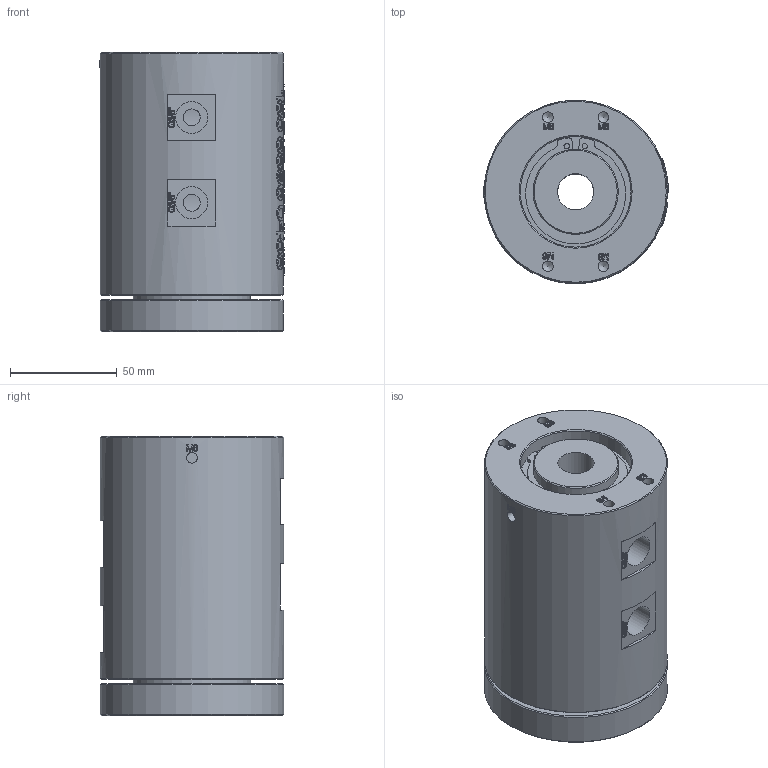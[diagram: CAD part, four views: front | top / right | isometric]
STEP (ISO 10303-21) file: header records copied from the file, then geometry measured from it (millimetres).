
FILE_DESCRIPTION(/* description */ (''),/* implementation_level */ '2;1');
FILE_NAME(/* name */ 'YQD0403-3D模型.stp',/* time_stamp */ '2025-09-25T16:59:40+08:00',/* author */ (''),/* organization */ (''),/* preprocessor_version */ 'ST-DEVELOPER v16.7',/* originating_system */ 'SIEMENS PLM Software NX 12.0',/* authorisation */ '');
FILE_SCHEMA (('AUTOMOTIVE_DESIGN { 1 0 10303 214 3 1 1 1 }'));
Products named in the file (1): Admi4334A7244i29
Bounding box: 86.7 x 86 x 131.4 mm (x, y, z)
Volume: 695343.4 mm3; surface area: 70646.3 mm2
Topology: 1 solids, 1 shells, 2188 faces, 6074 edges, 4049 vertices
Faces by surface type: extrusion 1404, plane 603, bspline 97, cylinder 69, cone 15
Full cylindrical faces by diameter (mm): 2.5 x2, 5 x10, 8 x8, 15 x8, 17 x1, 37.5 x1, 40 x1, 52 x1, 55 x1, 65 x1, 86 x2
Entity records: 85445 total; most frequent: CARTESIAN_POINT 39641, ORIENTED_EDGE 11952, B_SPLINE_CURVE_WITH_KNOTS 6322, EDGE_CURVE 5976, DIRECTION 4092, VERTEX_POINT 4014, EDGE_LOOP 2406, VECTOR 2208
